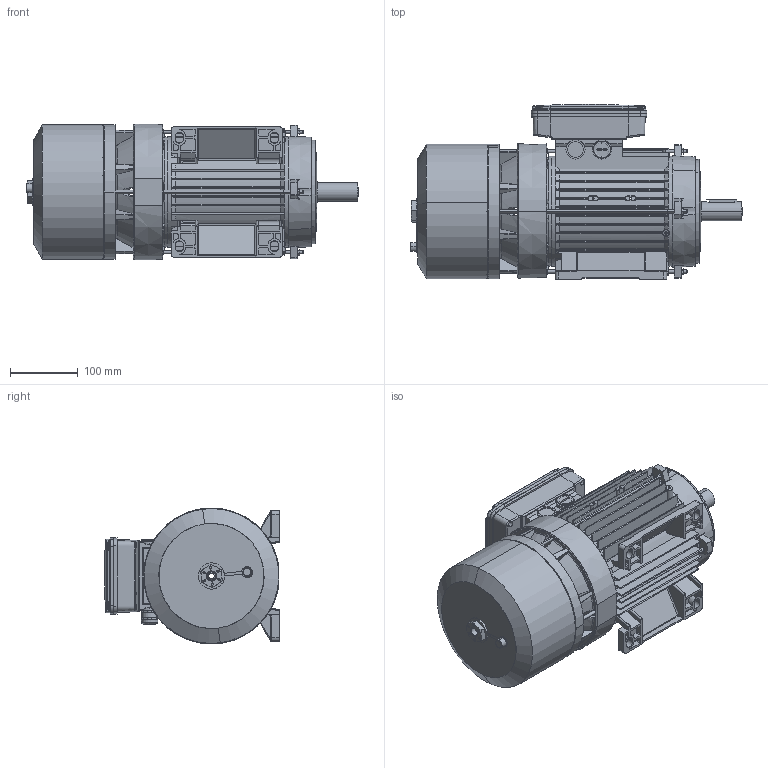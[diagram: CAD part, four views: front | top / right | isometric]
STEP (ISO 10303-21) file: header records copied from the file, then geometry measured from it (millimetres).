
FILE_DESCRIPTION (( 'STEP AP214' ), '1' );
FILE_NAME ('MBF 100 B3.STEP', '2020-06-20T02:07:14', ( '' ), ( '' ), 'SwSTEP 2.0', 'SolidWorks 2016', '' );
FILE_SCHEMA (( 'AUTOMOTIVE_DESIGN' ));
Length unit declared in the file: millimetre
Products named in the file (1): MBF 100 B3
Bounding box: 488.5 x 257.3 x 199.95 mm (x, y, z)
Surface area: 762679.9 mm2 (no closed solid volume)
Topology: 0 solids, 66 shells, 1652 faces, 5850 edges, 4080 vertices
Faces by surface type: plane 670, cylinder 500, bspline 314, cone 164, torus 4
Entity records: 100175 total; most frequent: CARTESIAN_POINT 36834, ORIENTED_EDGE 9785, DIRECTION 7941, EDGE_CURVE 5836, VERTEX_POINT 4080, AXIS2_PLACEMENT_3D 2759, LINE 2423, VECTOR 2423
